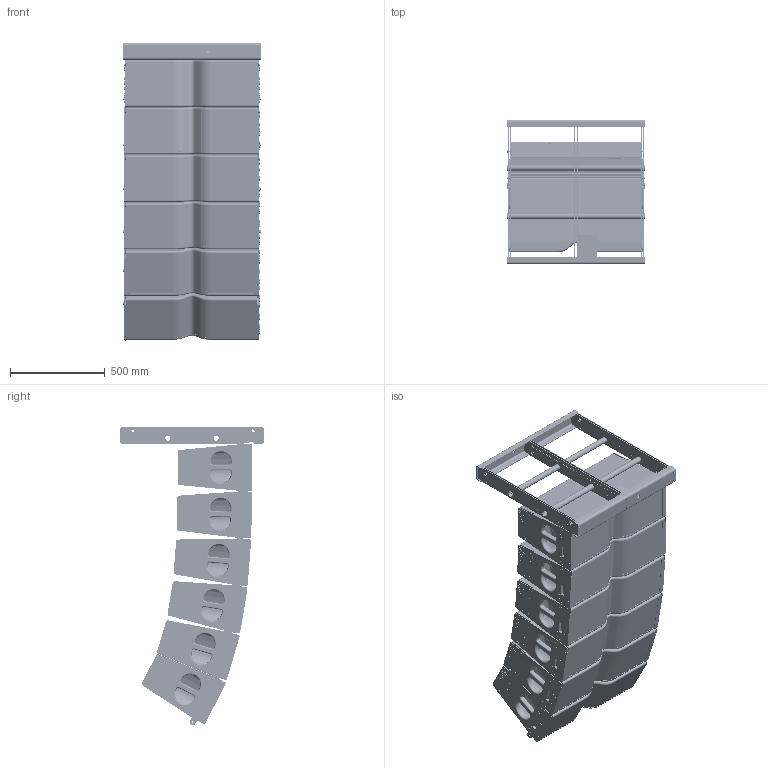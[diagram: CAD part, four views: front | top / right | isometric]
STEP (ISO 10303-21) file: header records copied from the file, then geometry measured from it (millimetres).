
FILE_DESCRIPTION(/* description */ (''),/* implementation_level */ '2;1');
FILE_NAME(/* name */ 'LA28 6 Box ARRAY v2.step',/* time_stamp */ '2023-01-21T23:26:22-08:00',/* author */ (''),/* organization */ (''),/* preprocessor_version */ 'ST-DEVELOPER v19.2',/* originating_system */ 'Autodesk Translation Framework v11.17.0.187',/* authorisation */ '');
FILE_SCHEMA (('AUTOMOTIVE_DESIGN { 1 0 10303 214 3 1 1 }'));
Length unit declared in the file: inch
Products named in the file (10): LA28 6 Box ARRAY; LA28 RF1 Sheet Metal Assembly; LA28RF1 Front Rear C Channel^la28RF1 SHEET METAL ASSEMBLY; LA28RF1 Center Bar^la28RF1 SHEET METAL ASSEMBLY; AL28RF1 Outer Bar^la28RF1 SHEET METAL ASSEMBLY; Inclinometer Mount Plate^la28RF1 SHEET METAL ASSEMBLY; Stabilizing Tube^la28RF1 SHEET METAL ASSEMBLY; Rear Connection Arm^la28RF1 SHEET METAL ASSEMBLY; LA18 LA28 Front Connection Tongue^la28RF1 SHEET METAL ASSEMBLY; LA28 TOUR BLOCK
Assembly tree (22 placements, depth 3):
  LA28 6 Box ARRAY
    LA28 RF1 Sheet Metal Assembly
      LA28RF1 Front Rear C Channel^la28RF1 SHEET METAL ASSEMBLY  x2
      LA28RF1 Center Bar^la28RF1 SHEET METAL ASSEMBLY  x2
      AL28RF1 Outer Bar^la28RF1 SHEET METAL ASSEMBLY  x4
      Inclinometer Mount Plate^la28RF1 SHEET METAL ASSEMBLY
      Stabilizing Tube^la28RF1 SHEET METAL ASSEMBLY  x2
      Rear Connection Arm^la28RF1 SHEET METAL ASSEMBLY  x2
      LA18 LA28 Front Connection Tongue^la28RF1 SHEET METAL ASSEMBLY  x2
    LA28 TOUR BLOCK  x6
Bounding box: 726.62 x 762 x 1569.19 mm (x, y, z)
Volume: 347970394 mm3; surface area: 9010747.6 mm2
Topology: 21 solids, 21 shells, 3137 faces, 7821 edges, 5038 vertices
Faces by surface type: plane 1436, cylinder 1341, torus 324, bspline 36
Full cylindrical faces by diameter (mm): 6.35 x4, 8.319 x36, 8.382 x366, 8.7 x12, 13 x84, 16.51 x52, 17 x72, 19.05 x2, 22.86 x2, 25.4 x8, 27.178 x2, 31.75 x2, 32.004 x12
Entity records: 22797 total; most frequent: CARTESIAN_POINT 4179, DIRECTION 3928, ORIENTED_EDGE 3624, EDGE_CURVE 1812, AXIS2_PLACEMENT_3D 1405, VERTEX_POINT 1168, LINE 1118, VECTOR 1118
